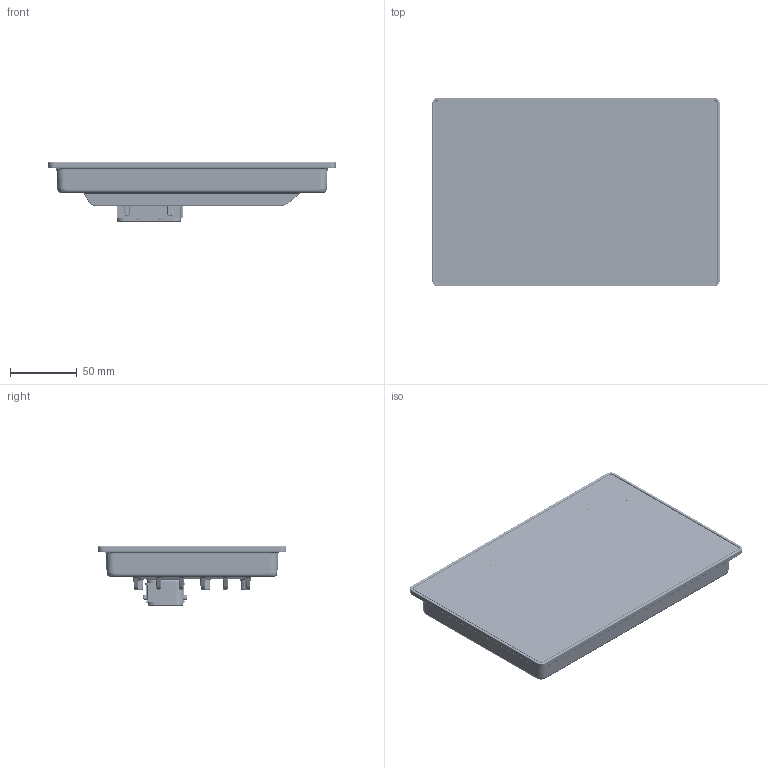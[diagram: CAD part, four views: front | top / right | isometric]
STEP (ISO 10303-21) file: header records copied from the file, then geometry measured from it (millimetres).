
FILE_DESCRIPTION(/* description */ ('IQAN-MD5-8'),/* implementation_level */ '2;1');
FILE_NAME(/* name */ 'IQAN-MD5-8-MARKET-3D.stp',/* time_stamp */ '2026-02-13T14:48:08+01:00',/* author */ ('SJ63774B'),/* organization */ (''),/* preprocessor_version */ 'ST-DEVELOPER v20',/* originating_system */ 'Autodesk Inventor 2024',/* authorisation */ '');
FILE_SCHEMA (('AUTOMOTIVE_DESIGN { 1 0 10303 214 3 1 1 }'));
Products named in the file (6): IQAN-MD5-8-MARKET; 5041836; 5031268; 5041934; 5041933; COVER_3
Assembly tree (5 placements, depth 2):
  IQAN-MD5-8-MARKET
    5041836
    5031268
    5041934
    5041933
    COVER_3
Bounding box: 215.06 x 141.26 x 44.32 mm (x, y, z)
Volume: 223481.2 mm3; surface area: 200004.6 mm2
Topology: 5 solids, 5 shells, 8133 faces, 20447 edges, 12303 vertices
Faces by surface type: cylinder 2645, plane 2404, bspline 2211, cone 337, torus 286, sphere 250
Full cylindrical faces by diameter (mm): 1 x2, 2 x1, 2.459 x4, 2.8 x1, 3 x1, 3.2 x4, 3.242 x10, 3.5 x4, 4.5 x6, 5 x1, 7 x4, 8 x4, 10 x1
Entity records: 367126 total; most frequent: CARTESIAN_POINT 181961, ORIENTED_EDGE 40450, DIRECTION 35913, EDGE_CURVE 20225, AXIS2_PLACEMENT_3D 13353, VERTEX_POINT 12303, LINE 9207, VECTOR 9207
